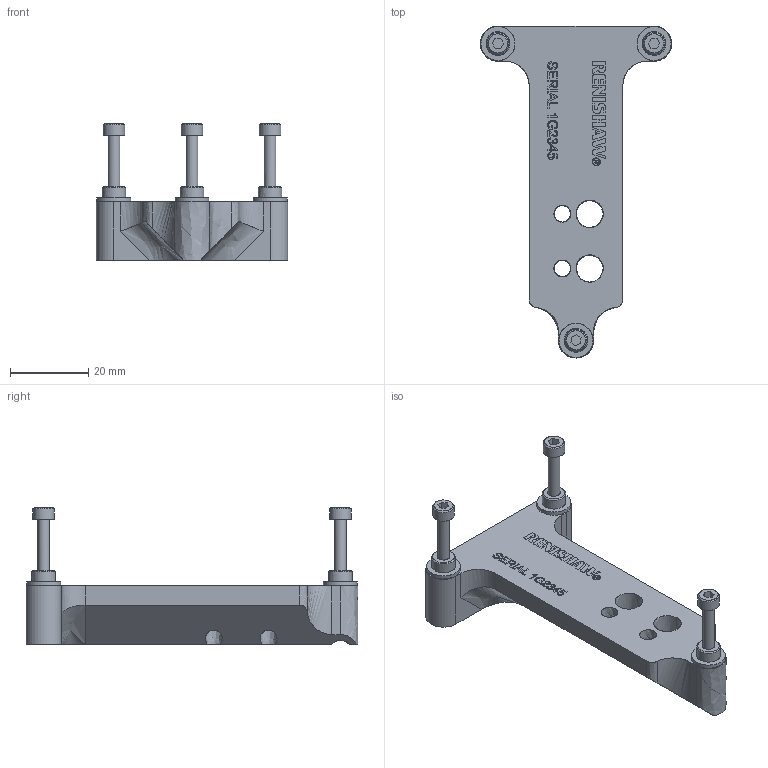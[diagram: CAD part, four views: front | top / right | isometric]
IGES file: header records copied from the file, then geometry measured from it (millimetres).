
Global section: file name: Y:\_LCPD Drawings\13.1 Lightweight Models\9904\RLD\RLD DI\ALIGNMENT AID\A_5225_0569_01_D RLD DI ALIGNMENT AID KIT.igs; native system: NX V6.0; preprocessor: SIEMENS UGS NX 6.0; date: 20100127.112238; units: millimetre
Bounding box: 49 x 85 x 35.01 mm (x, y, z)
Surface area: 10227.8 mm2 (no closed solid volume)
Topology: 0 solids, 0 shells, 439 faces, 2835 edges, 2796 vertices
Faces by surface type: bspline 439
